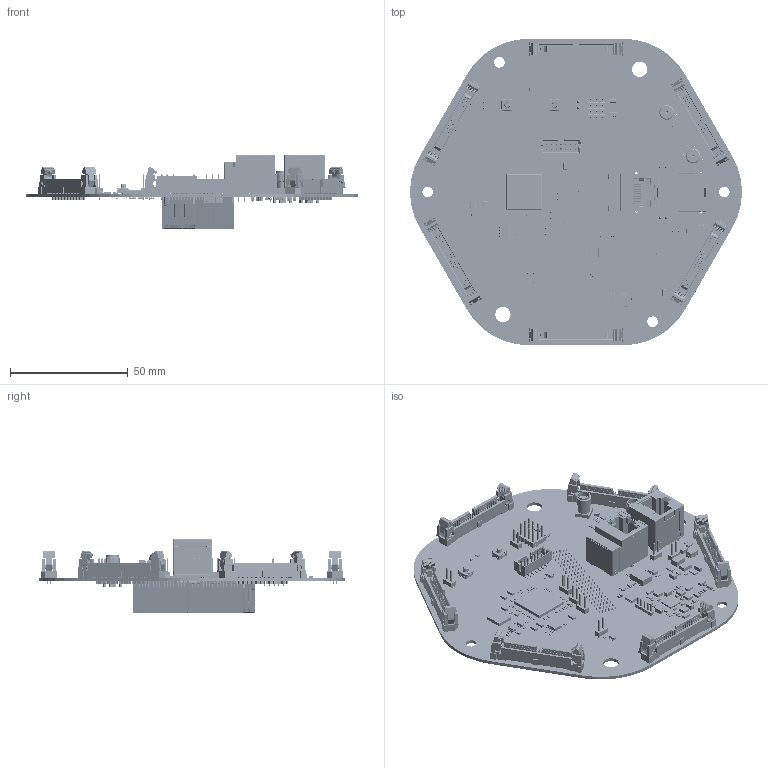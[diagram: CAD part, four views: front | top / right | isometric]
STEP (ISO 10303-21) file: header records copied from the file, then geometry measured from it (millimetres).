
FILE_DESCRIPTION(('STEP AP214'),'1');
FILE_NAME('DTB5.step','2023-12-14T13:17:25',(' '),(' '),'Spatial InterOp 3D','XD3DPlugin XRACreate',' ');
FILE_SCHEMA(('automotive_design'));
Length unit declared in the file: millimetre
Products named in the file (158): DesignRootModel; uid__2135869; Submodel-W:\VX-Projects-Mentor\CTA\Digital_Trigger\L1\DTB5\pcb\Layout\3D\ImportedPartModels\ID3D000341.stp; ID3D000341.xtd; Submodel-CONN001175_part_CN_RJ45_THRU_8P_ST_F__V1; Submodel-W:\VX-Projects-Mentor\CTA\Digital_Trigger\L1\DTB5\pcb\Layout\3D\ImportedPartModels\ID3D000813.stp; ID3D000813.xtd; Submodel-CONN002238_part_CN_RJ45_THRU_15P_2LED_vertical_RT__V1; Submodel-W:\VX-Projects-Mentor\CTA\Digital_Trigger\L1\DTB5\pcb\Layout\3D\ImportedPartModels\ID3D000224.stp; ID3D000224.xtd; Submodel-RESI000444_part_res_0603_ze__V1; Submodel-W:\VX-Projects-Mentor\CTA\Digital_Trigger\L1\DTB5\pcb\Layout\3D\ImportedPartModels\ID3D000226.stp; ID3D000226.xtd; Submodel-INDU001056_part_res_1206_ipc__V1; Submodel-W:\VX-Projects-Mentor\CTA\Digital_Trigger\L1\DTB5\pcb\Layout\3D\ImportedPartModels\ID3D100807.stp; ID3D100807.stp; Submodel-CAPA002977_part_cap_1206_ipc_H1.8__V1; Submodel-W:\VX-Projects-Mentor\CTA\Digital_Trigger\L1\DTB5\pcb\Layout\3D\ImportedPartModels\ID3D001258.stp; ID3D001258.xtd; Submodel-CONN003163_part_CN_TSHDR_THRU_40P_20X2_1.27SP_ST_M__V1; Submodel-W:\VX-Projects-Mentor\CTA\Digital_Trigger\L1\DTB5\pcb\Layout\3D\ImportedPartModels\ID3D000010.stp; ID3D000010.xtd; Submodel-CAPA000062_part_cap_0402_ze__V1; Submodel-noModelForPart_FUSE002942_3367230580; placementOutline; Submodel-FUSE002942_3367230580_part_FUSE_1812_1.55H__V1; Submodel-RESI000382_part_res_0603_ze__V1; Submodel-W:\VX-Projects-Mentor\CTA\Digital_Trigger\L1\DTB5\pcb\Layout\3D\ImportedPartModels\ID3D000221.stp; ID3D000221.xtd; Submodel-CAPA100068_part_cap_0603_ze__V1; Submodel-W:\VX-Projects-Mentor\CTA\Digital_Trigger\L1\DTB5\pcb\Layout\3D\ImportedPartModels\ID3D101855.stp; ID3D101855.stp; Submodel-INDU002975_part_IND_SMD_2P_2.1SP_3X3B__V1; Submodel-CAPA000069_part_cap_0603_ze__V1; Submodel-W:\VX-Projects-Mentor\CTA\Digital_Trigger\L1\DTB5\pcb\Layout\3D\ImportedPartModels\ID3D000210.stp; ID3D000210.xtd; Submodel-CONN000039_part_CN_TSHDR_THRU_2P_1X2_2.54SP_ST_M__V1; Submodel-RESI000356_part_res_0603_ze__V1; Submodel-CAPA900180_part_cap_0603_ze__V1; Submodel-RESI001355_part_res_0603_ze__V1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
Assembly tree (337 placements, depth 6):
  DTB5
    DesignRootModel
      uid__2135869
      Submodel-CONN001175_part_CN_RJ45_THRU_8P_ST_F__V1
        Submodel-W:\VX-Projects-Mentor\CTA\Digital_Trigger\L1\DTB5\pcb\Layout\3D\ImportedPartModels\ID3D000341.stp
          ID3D000341.xtd
      Submodel-CONN002238_part_CN_RJ45_THRU_15P_2LED_vertical_RT__V1
        Submodel-W:\VX-Projects-Mentor\CTA\Digital_Trigger\L1\DTB5\pcb\Layout\3D\ImportedPartModels\ID3D000813.stp
          ID3D000813.xtd
      Submodel-RESI000444_part_res_0603_ze__V1  x2
        Submodel-W:\VX-Projects-Mentor\CTA\Digital_Trigger\L1\DTB5\pcb\Layout\3D\ImportedPartModels\ID3D000224.stp
          ID3D000224.xtd
      Submodel-INDU001056_part_res_1206_ipc__V1  x2
        Submodel-W:\VX-Projects-Mentor\CTA\Digital_Trigger\L1\DTB5\pcb\Layout\3D\ImportedPartModels\ID3D000226.stp
          ID3D000226.xtd
      Submodel-CAPA002977_part_cap_1206_ipc_H1.8__V1  x6
        Submodel-W:\VX-Projects-Mentor\CTA\Digital_Trigger\L1\DTB5\pcb\Layout\3D\ImportedPartModels\ID3D100807.stp
          ID3D100807.stp
      Submodel-CONN003163_part_CN_TSHDR_THRU_40P_20X2_1.27SP_ST_M__V1  x6
        Submodel-W:\VX-Projects-Mentor\CTA\Digital_Trigger\L1\DTB5\pcb\Layout\3D\ImportedPartModels\ID3D001258.stp
          ID3D001258.xtd
      Submodel-CAPA000062_part_cap_0402_ze__V1  x24
        Submodel-W:\VX-Projects-Mentor\CTA\Digital_Trigger\L1\DTB5\pcb\Layout\3D\ImportedPartModels\ID3D000010.stp
          ID3D000010.xtd
      Submodel-FUSE002942_3367230580_part_FUSE_1812_1.55H__V1
        Submodel-noModelForPart_FUSE002942_3367230580
          placementOutline
      Submodel-RESI000382_part_res_0603_ze__V1  x7
        Submodel-W:\VX-Projects-Mentor\CTA\Digital_Trigger\L1\DTB5\pcb\Layout\3D\ImportedPartModels\ID3D000224.stp
          ID3D000224.xtd
      Submodel-CAPA100068_part_cap_0603_ze__V1  x9
        Submodel-W:\VX-Projects-Mentor\CTA\Digital_Trigger\L1\DTB5\pcb\Layout\3D\ImportedPartModels\ID3D000221.stp
          ID3D000221.xtd
      Submodel-INDU002975_part_IND_SMD_2P_2.1SP_3X3B__V1
        Submodel-W:\VX-Projects-Mentor\CTA\Digital_Trigger\L1\DTB5\pcb\Layout\3D\ImportedPartModels\ID3D101855.stp
          ID3D101855.stp
      Submodel-CAPA000069_part_cap_0603_ze__V1  x4
        Submodel-W:\VX-Projects-Mentor\CTA\Digital_Trigger\L1\DTB5\pcb\Layout\3D\ImportedPartModels\ID3D000221.stp
          ID3D000221.xtd
      Submodel-CONN000039_part_CN_TSHDR_THRU_2P_1X2_2.54SP_ST_M__V1  x9
        Submodel-W:\VX-Projects-Mentor\CTA\Digital_Trigger\L1\DTB5\pcb\Layout\3D\ImportedPartModels\ID3D000210.stp
          ID3D000210.xtd
      Submodel-RESI000356_part_res_0603_ze__V1  x6
        Submodel-W:\VX-Projects-Mentor\CTA\Digital_Trigger\L1\DTB5\pcb\Layout\3D\ImportedPartModels\ID3D000224.stp
          ID3D000224.xtd
      Submodel-CAPA900180_part_cap_0603_ze__V1  x3
        Submodel-W:\VX-Projects-Mentor\CTA\Digital_Trigger\L1\DTB5\pcb\Layout\3D\ImportedPartModels\ID3D000221.stp
          ID3D000221.xtd
      Submodel-RESI001355_part_res_0603_ze__V1
        Submodel-W:\VX-Projects-Mentor\CTA\Digital_Trigger\L1\DTB5\pcb\Layout\3D\ImportedPartModels\ID3D000224.stp
          ID3D000224.xtd
      Submodel-CONN100049_part_PSI_CN_SMA_1P+4S_ST_SUHNER__V1  x2
        Submodel-W:\VX-Projects-Mentor\CTA\Digital_Trigger\L1\DTB5\pcb\Layout\3D\ImportedPartModels\ID3D100031.stp
          ID3D100031.stp
      Submodel-CAPA001346_part_cap_0402_ze__V1  x24
        Submodel-W:\VX-Projects-Mentor\CTA\Digital_Trigger\L1\DTB5\pcb\Layout\3D\ImportedPartModels\ID3D000010.stp
          ID3D000010.xtd
      Submodel-RESI001082_part_res_0402_ze__V1  x5
        Submodel-W:\VX-Projects-Mentor\CTA\Digital_Trigger\L1\DTB5\pcb\Layout\3D\ImportedPartModels\ID3D000141.stp
          ID3D000141.xtd
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Bounding box: 140.82 x 130 x 31.46 mm (x, y, z)
Volume: 38220.5 mm3; surface area: 66292.3 mm2
Topology: 363 solids, 386 shells, 33001 faces, 83795 edges, 52154 vertices
Faces by surface type: plane 19884, cylinder 7163, bspline 4104, sphere 1749, extrusion 42, cone 34, torus 25
Full cylindrical faces by diameter (mm): 0.122 x1, 0.225 x1, 0.3 x3, 0.4 x1, 0.6 x120, 0.65 x240, 0.8 x5, 0.85 x2, 0.9 x18, 0.986 x2, 1 x36, 1.265 x2, 1.27 x2, 1.5 x12, 1.6 x2, 2.591 x2, 3.2 x2, 3.3 x2, 4.12 x2, 4.5 x4, 4.65 x2, 5.35 x4, 6.255 x2, 6.5 x2
Entity records: 2455717 total; most frequent: ORIENTED_EDGE 454362, DIRECTION 431805, CARTESIAN_POINT 228224, EDGE_CURVE 227181, VECTOR 186345, LINE 186303, VERTEX_POINT 151218, AXIS2_PLACEMENT_3D 122730
